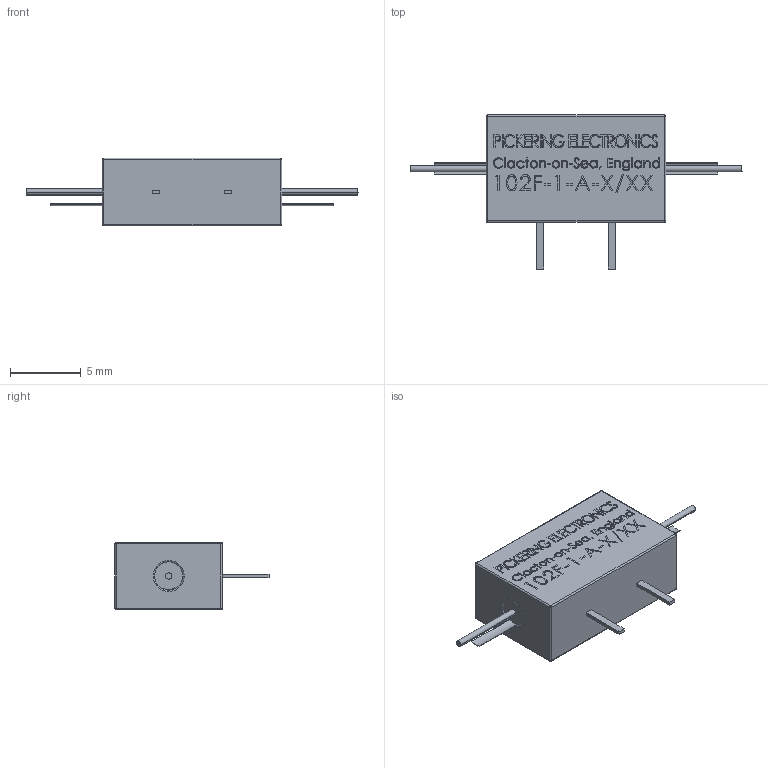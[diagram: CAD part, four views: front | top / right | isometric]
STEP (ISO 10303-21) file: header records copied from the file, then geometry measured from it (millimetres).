
FILE_DESCRIPTION (( 'STEP AP203' ), '1' );
FILE_NAME ('102F-1-A.STEP', '2010-06-29T13:01:03', ( ' ' ), ( '' ), 'SwSTEP 2.0', 'SolidWorks 2009', '' );
FILE_SCHEMA (( 'CONFIG_CONTROL_DESIGN' ));
Length unit declared in the file: millimetre
Products named in the file (1): 102F-1-A
Bounding box: 23.5 x 10.9 x 4.8 mm (x, y, z)
Volume: 465 mm3; surface area: 423.2 mm2
Topology: 1 solids, 1 shells, 691 faces, 1816 edges, 1196 vertices
Faces by surface type: plane 431, bspline 222, cylinder 24, sphere 10, torus 4
Entity records: 33009 total; most frequent: CARTESIAN_POINT 17382, ORIENTED_EDGE 3616, DIRECTION 2366, EDGE_CURVE 1808, VECTOR 1302, LINE 1302, VERTEX_POINT 1196, EDGE_LOOP 768
